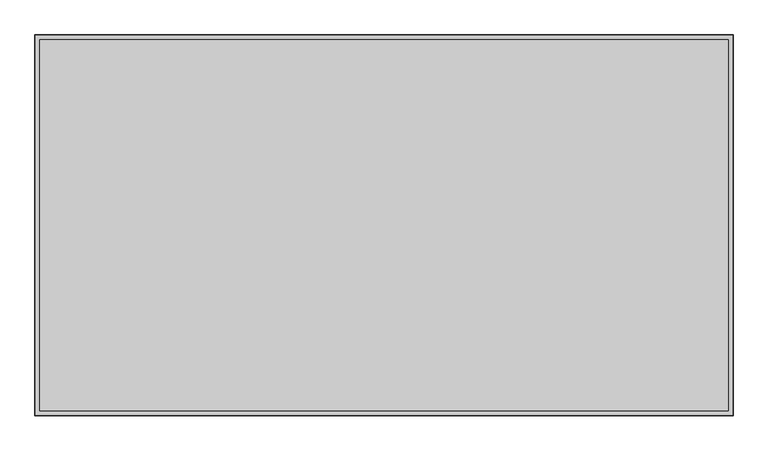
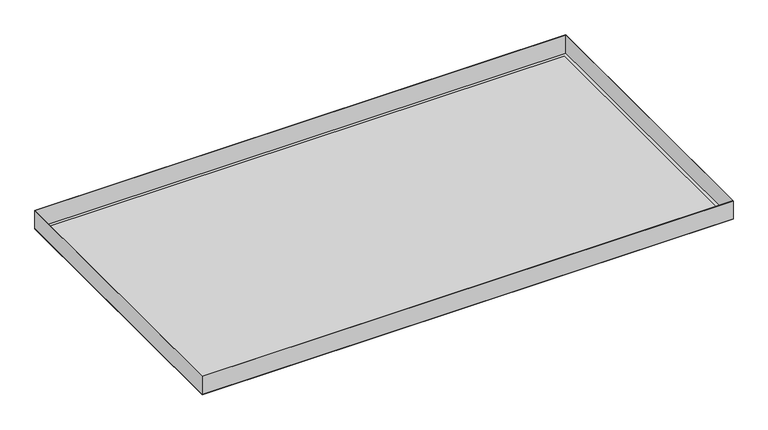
"""IFC4 building model written with IfcOpenShell, lengths in millimetres: proxy geometry, durlum_S5-100_panel : durlum_S5-100_panel."""

from ifc_helpers import new_model, si_unit, frame, origin, origin_with_axes, place, context, project, spatial, polyline, outline, extrude, source, transform, mapped, element, save


def generic_models_473d700c(model_context):
    return source(origin(), model_context, "Body", "SweptSolid", [
        extrude(outline(polyline([(549.5, 299.75), (549.5, -299.75), (-549.5, -299.75), (-549.5, 299.75), (549.5, 299.75)]), holes=[polyline([(548.9, 299.15), (-548.9, 299.15), (-548.9, -299.15), (548.9, -299.15), (548.9, 299.15)])]), frame((0.0, 0.0, 0.6), z_axis=(0.0, 0.0, 1.0), x_axis=(1.0, 0.0, 0.0)), (0.0, 0.0, 1.0), 39.4),
        extrude(outline(polyline([(541.5, 291.75), (541.5, -291.75), (-541.5, -291.75), (-541.5, 291.75), (541.5, 291.75)])), frame((0.0, 0.0, 0.6), z_axis=(0.0, 0.0, 1.0), x_axis=(1.0, 0.0, 0.0)), (0.0, 0.0, 1.0), 0.6),
        extrude(outline(polyline([(549.5, 299.75), (549.5, -299.75), (-549.5, -299.75), (-549.5, 299.75), (549.5, 299.75)]), holes=[polyline([(541.5, 291.75), (-541.5, 291.75), (-541.5, -291.75), (541.5, -291.75), (541.5, 291.75)])]), origin_with_axes(), (0.0, 0.0, 1.0), 0.6),
        extrude(outline(polyline([(541.5, 291.75), (541.5, -291.75), (-541.5, -291.75), (-541.5, 291.75), (541.5, 291.75)])), origin_with_axes(), (0.0, 0.0, 1.0), 0.6),
    ])


if __name__ == "__main__":
    model = new_model("IFC4")
    model_context = context("Model", 3, world=origin())
    ifc_project = project(units=[si_unit("LENGTHUNIT", "METRE", prefix="MILLI")], contexts=[model_context])
    site = spatial("IfcSite", under=ifc_project)
    building = spatial("IfcBuilding", under=site)
    placement = place(None, origin())
    generic_models_shape = generic_models_473d700c(model_context)
    element("IfcBuildingElementProxy", 1, Name="durlum_S5-100_panel : durlum_S5-100_panel", ObjectType="durlum_S5-100_panel : durlum_S5-100_panel", at=placement, inside=building, context=model_context, shape_type="MappedRepresentation", body=[
        mapped(generic_models_shape, transform((0.0, 0.0, 0.0), x_axis=(1.0, 0.0, 0.0), y_axis=(0.0, 1.0, 0.0), z_axis=(0.0, 0.0, 1.0))),
    ])
    save(model, "model.ifc")
